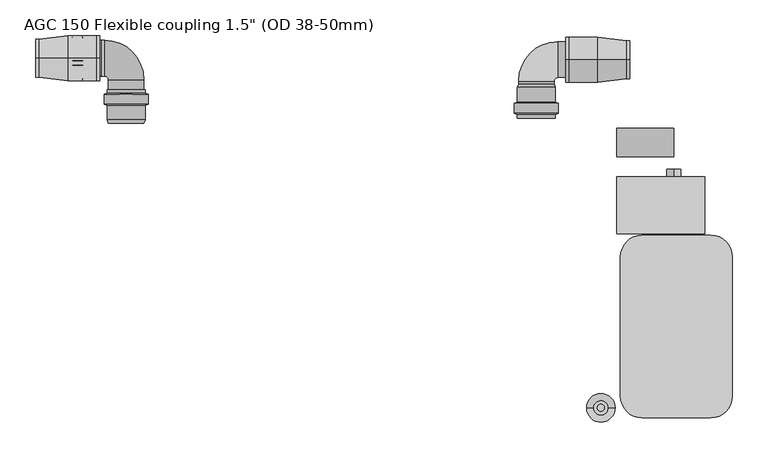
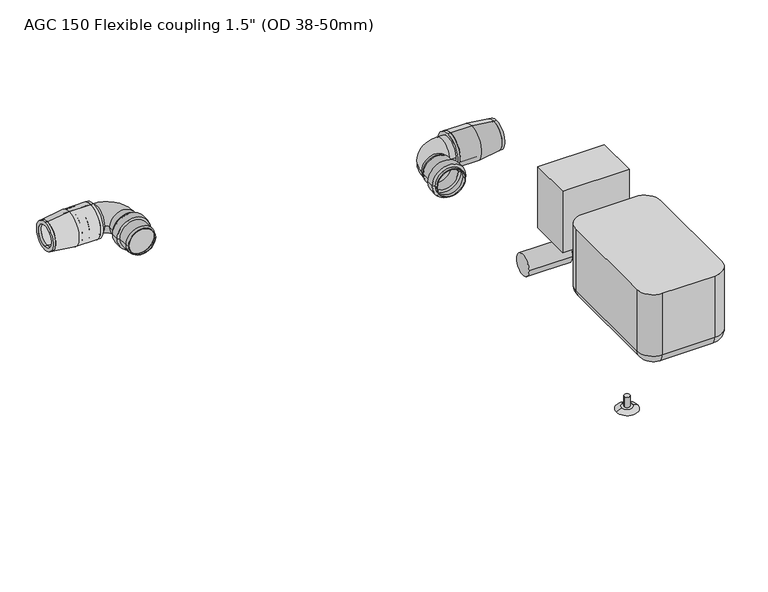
"""IFC4 building model written with IfcOpenShell, lengths in millimetres: unitary equipment geometry."""

from ifc_helpers import new_model, si_unit, point, frame, frame_2d, origin, place, context, project, spatial, polyline, circle_curve, ellipse_curve, trimmed, segment, composite_curve, outline, extrude, source, transform, mapped, element, save
from ifc_brep_helpers import plane_surface, cylinder_surface, revolved_surface, advanced_brep


def unitary_equipment_1463d43d(model_context):
    return source(origin(), model_context, "Body", "SolidModel", [
        advanced_brep(
        [(-309.5, 267.5, 317.0), (-309.5, 318.5, 317.0), (-303.9, 318.5, 317.0), (-303.9, 267.5, 317.0), (-309.5, 266.5, 317.0), (-309.5, 319.5, 317.0), (-304.6057737, 266.5, 317.0), (-304.6057737, 319.5, 317.0), (-303.0057737, 262.0, 317.0), (-303.0057737, 324.0, 317.0), (-288.6792408, 262.0, 317.0), (-288.6792408, 324.0, 317.0), (-287.1792408, 266.5, 317.0), (-287.1792408, 319.5, 317.0), (-266.1097736, 266.5, 317.0), (-266.1097736, 319.5, 317.0), (-262.1328335, 268.0698448, 317.0), (-262.1328335, 317.9301552, 317.0), (-262.5, 269.0, 317.0), (-262.5, 317.0, 317.0), (-266.3, 267.5, 317.0), (-266.3, 318.5, 317.0), (-287.9, 267.5, 317.0), (-287.9, 318.5, 317.0), (-289.4, 263.0, 317.0), (-289.4, 323.0, 317.0), (-302.3, 263.0, 317.0), (-302.3, 323.0, 317.0)],
        [
            (0, 1, circle_curve(frame((-309.5, 293.0, 317.0), z_axis=(-1.0, 0.0, 0.0), x_axis=(0.0, 1.0, 0.0)), 25.5)),
            (1, 2),
            (2, 3, circle_curve(frame((-303.9, 293.0, 317.0), z_axis=(1.0, 0.0, 0.0), x_axis=(0.0, 1.0, 0.0)), 25.5)),
            (3, 0),
            (1, 0, circle_curve(frame((-309.5, 293.0, 317.0), z_axis=(-1.0, 0.0, 0.0), x_axis=(0.0, 1.0, 0.0)), 25.5)),
            (3, 2, circle_curve(frame((-303.9, 293.0, 317.0), z_axis=(1.0, 0.0, 0.0), x_axis=(0.0, 1.0, 0.0)), 25.5)),
            (4, 5, circle_curve(frame((-309.5, 293.0, 317.0), z_axis=(-1.0, 0.0, 0.0), x_axis=(0.0, 1.0, 0.0)), 26.5)),
            (5, 1),
            (0, 4),
            (5, 4, circle_curve(frame((-309.5, 293.0, 317.0), z_axis=(-1.0, 0.0, 0.0), x_axis=(0.0, 1.0, 0.0)), 26.5)),
            (6, 7, circle_curve(frame((-304.6057737, 293.0, 317.0), z_axis=(-1.0, 0.0, 0.0), x_axis=(0.0, 1.0, 0.0)), 26.5)),
            (7, 5),
            (4, 6),
            (7, 6, circle_curve(frame((-304.6057737, 293.0, 317.0), z_axis=(-1.0, 0.0, 0.0), x_axis=(0.0, 1.0, 0.0)), 26.5)),
            (8, 9, circle_curve(frame((-303.0057737, 293.0, 317.0), z_axis=(-1.0, 0.0, 0.0), x_axis=(0.0, 1.0, 0.0)), 31.0)),
            (9, 7),
            (6, 8),
            (9, 8, circle_curve(frame((-303.0057737, 293.0, 317.0), z_axis=(-1.0, 0.0, 0.0), x_axis=(0.0, 1.0, 0.0)), 31.0)),
            (10, 11, circle_curve(frame((-288.6792408, 293.0, 317.0), z_axis=(-1.0, 0.0, 0.0), x_axis=(0.0, 1.0, 0.0)), 31.0)),
            (11, 9),
            (8, 10),
            (11, 10, circle_curve(frame((-288.6792408, 293.0, 317.0), z_axis=(-1.0, 0.0, 0.0), x_axis=(0.0, 1.0, 0.0)), 31.0)),
            (12, 13, circle_curve(frame((-287.1792408, 293.0, 317.0), z_axis=(-1.0, 0.0, 0.0), x_axis=(0.0, 1.0, 0.0)), 26.5)),
            (13, 11),
            (10, 12),
            (13, 12, circle_curve(frame((-287.1792408, 293.0, 317.0), z_axis=(-1.0, 0.0, 0.0), x_axis=(0.0, 1.0, 0.0)), 26.5)),
            (14, 15, circle_curve(frame((-266.1097736, 293.0, 317.0), z_axis=(-1.0, 0.0, 0.0), x_axis=(0.0, 1.0, 0.0)), 26.5)),
            (15, 13),
            (12, 14),
            (15, 14, circle_curve(frame((-266.1097736, 293.0, 317.0), z_axis=(-1.0, 0.0, 0.0), x_axis=(0.0, 1.0, 0.0)), 26.5)),
            (16, 17, circle_curve(frame((-262.1328335, 293.0, 317.0), z_axis=(-1.0, 0.0, 0.0), x_axis=(0.0, 1.0, 0.0)), 24.9301552)),
            (17, 15),
            (14, 16),
            (17, 16, circle_curve(frame((-262.1328335, 293.0, 317.0), z_axis=(-1.0, 0.0, 0.0), x_axis=(0.0, 1.0, 0.0)), 24.9301552)),
            (18, 19, circle_curve(frame((-262.5, 293.0, 317.0), z_axis=(-1.0, 0.0, 0.0), x_axis=(0.0, 1.0, 0.0)), 24.0)),
            (19, 17),
            (16, 18),
            (19, 18, circle_curve(frame((-262.5, 293.0, 317.0), z_axis=(-1.0, 0.0, 0.0), x_axis=(0.0, 1.0, 0.0)), 24.0)),
            (20, 21, circle_curve(frame((-266.3, 293.0, 317.0), z_axis=(-1.0, 0.0, 0.0), x_axis=(0.0, 1.0, 0.0)), 25.5)),
            (21, 19),
            (18, 20),
            (21, 20, circle_curve(frame((-266.3, 293.0, 317.0), z_axis=(-1.0, 0.0, 0.0), x_axis=(0.0, 1.0, 0.0)), 25.5)),
            (22, 23, circle_curve(frame((-287.9, 293.0, 317.0), z_axis=(-1.0, 0.0, 0.0), x_axis=(0.0, 1.0, 0.0)), 25.5)),
            (23, 21),
            (20, 22),
            (23, 22, circle_curve(frame((-287.9, 293.0, 317.0), z_axis=(-1.0, 0.0, 0.0), x_axis=(0.0, 1.0, 0.0)), 25.5)),
            (24, 25, circle_curve(frame((-289.4, 293.0, 317.0), z_axis=(-1.0, 0.0, 0.0), x_axis=(0.0, 1.0, 0.0)), 30.0)),
            (25, 23),
            (22, 24),
            (25, 24, circle_curve(frame((-289.4, 293.0, 317.0), z_axis=(-1.0, 0.0, 0.0), x_axis=(0.0, 1.0, 0.0)), 30.0)),
            (26, 27, circle_curve(frame((-302.3, 293.0, 317.0), z_axis=(-1.0, 0.0, 0.0), x_axis=(0.0, 1.0, 0.0)), 30.0)),
            (27, 25),
            (24, 26),
            (27, 26, circle_curve(frame((-302.3, 293.0, 317.0), z_axis=(-1.0, 0.0, 0.0), x_axis=(0.0, 1.0, 0.0)), 30.0)),
            (2, 27),
            (26, 3),
        ],
        [
            revolved_surface(polyline([(-303.9, 318.5, 317.0), (-309.5, 318.5, 317.0)]), (-250.031054, 293.0, 317.0), (1.0, 0.0, 0.0)),
            plane_surface(frame((-309.5, 293.0, 317.0), z_axis=(-1.0, 0.0, 0.0), x_axis=(0.0, 1.0, 0.0))),
            cylinder_surface(frame((-250.031054, 293.0, 317.0), z_axis=(1.0, 0.0, 0.0), x_axis=(0.0, 1.0, 0.0)), 26.5),
            revolved_surface(polyline([(-304.6057737, 319.5, 317.0), (-303.0057737, 324.0, 317.0)]), (-250.031054, 293.0, 317.0), (1.0, 0.0, 0.0)),
            cylinder_surface(frame((-250.031054, 293.0, 317.0), z_axis=(1.0, 0.0, 0.0), x_axis=(0.0, 1.0, 0.0)), 31.0),
            revolved_surface(polyline([(-288.6792408, 324.0, 317.0), (-287.1792408, 319.5, 317.0)]), (-250.031054, 293.0, 317.0), (1.0, 0.0, 0.0)),
            revolved_surface(polyline([(-266.1097736, 319.5, 317.0), (-262.1328335, 317.9301552, 317.0)]), (-250.031054, 293.0, 317.0), (1.0, 0.0, 0.0)),
            revolved_surface(polyline([(-262.1328335, 317.9301552, 317.0), (-262.5, 317.0, 317.0)]), (-250.031054, 293.0, 317.0), (1.0, 0.0, 0.0)),
            revolved_surface(polyline([(-262.5, 317.0, 317.0), (-266.3, 318.5, 317.0)]), (-250.031054, 293.0, 317.0), (1.0, 0.0, 0.0)),
            revolved_surface(polyline([(-266.3, 318.5, 317.0), (-287.9, 318.5, 317.0)]), (-250.031054, 293.0, 317.0), (1.0, 0.0, 0.0)),
            revolved_surface(polyline([(-287.9, 318.5, 317.0), (-289.4, 323.0, 317.0)]), (-250.031054, 293.0, 317.0), (1.0, 0.0, 0.0)),
            revolved_surface(polyline([(-289.4, 323.0, 317.0), (-302.3, 323.0, 317.0)]), (-250.031054, 293.0, 317.0), (1.0, 0.0, 0.0)),
            revolved_surface(polyline([(-302.3, 323.0, 317.0), (-303.9, 318.5, 317.0)]), (-250.031054, 293.0, 317.0), (1.0, 0.0, 0.0)),
        ],
        [
            (0, [[1, 2, 3, 4]]),
            (0, [[5, -4, 6, -2]]),
            (1, [[7, 8, -1, 9]]),
            (1, [[10, -9, -5, -8]]),
            (2, [[11, 12, -7, 13]]),
            (2, [[14, -13, -10, -12]]),
            (3, [[15, 16, -11, 17]]),
            (3, [[18, -17, -14, -16]]),
            (4, [[19, 20, -15, 21]]),
            (4, [[22, -21, -18, -20]]),
            (5, [[23, 24, -19, 25]]),
            (5, [[26, -25, -22, -24]]),
            (2, [[27, 28, -23, 29]]),
            (2, [[30, -29, -26, -28]]),
            (6, [[31, 32, -27, 33]]),
            (6, [[34, -33, -30, -32]]),
            (7, [[35, 36, -31, 37]]),
            (7, [[38, -37, -34, -36]]),
            (8, [[39, 40, -35, 41]]),
            (8, [[42, -41, -38, -40]]),
            (9, [[43, 44, -39, 45]]),
            (9, [[46, -45, -42, -44]]),
            (10, [[47, 48, -43, 49]]),
            (10, [[50, -49, -46, -48]]),
            (11, [[51, 52, -47, 53]]),
            (11, [[54, -53, -50, -52]]),
            (12, [[-3, 55, -51, 56]]),
            (12, [[-6, -56, -54, -55]]),
        ],
    ),
        advanced_brep(
        [(-197.5, 241.8, 317.0), (-257.5, 241.8, 317.0), (-253.0, 243.4, 317.0), (-202.0, 243.4, 317.0), (-197.5, 228.9, 317.0), (-257.5, 228.9, 317.0), (-202.0, 227.4, 317.0), (-253.0, 227.4, 317.0), (-202.0, 207.0, 317.0), (-253.0, 207.0, 317.0), (-203.5, 202.0, 317.0), (-251.5, 202.0, 317.0), (-202.5421737, 201.7126521, 317.0), (-252.4578263, 201.7126521, 317.0), (-201.0, 206.8532312, 317.0), (-254.0, 206.8532312, 317.0), (-201.0, 226.6792408, 317.0), (-254.0, 226.6792408, 317.0), (-196.7425527, 228.0983899, 317.0), (-258.2574473, 228.0983899, 317.0), (-196.7425527, 242.5920147, 317.0), (-258.2574473, 242.5920147, 317.0), (-201.0, 244.1057737, 317.0), (-254.0, 244.1057737, 317.0), (-201.0, 249.0, 317.0), (-254.0, 249.0, 317.0), (-202.0, 249.0, 317.0), (-253.0, 249.0, 317.0)],
        [
            (0, 1, circle_curve(frame((-227.5, 241.8, 317.0), z_axis=(0.0, -1.0, 0.0), x_axis=(-1.0, 0.0, 0.0)), 30.0)),
            (1, 2),
            (2, 3, circle_curve(frame((-227.5, 243.4, 317.0), z_axis=(0.0, 1.0, 0.0), x_axis=(-1.0, 0.0, 0.0)), 25.5)),
            (3, 0),
            (1, 0, circle_curve(frame((-227.5, 241.8, 317.0), z_axis=(0.0, -1.0, 0.0), x_axis=(-1.0, 0.0, 0.0)), 30.0)),
            (3, 2, circle_curve(frame((-227.5, 243.4, 317.0), z_axis=(0.0, 1.0, 0.0), x_axis=(-1.0, 0.0, 0.0)), 25.5)),
            (4, 5, circle_curve(frame((-227.5, 228.9, 317.0), z_axis=(0.0, -1.0, 0.0), x_axis=(-1.0, 0.0, 0.0)), 30.0)),
            (5, 1),
            (0, 4),
            (5, 4, circle_curve(frame((-227.5, 228.9, 317.0), z_axis=(0.0, -1.0, 0.0), x_axis=(-1.0, 0.0, 0.0)), 30.0)),
            (6, 7, circle_curve(frame((-227.5, 227.4, 317.0), z_axis=(0.0, -1.0, 0.0), x_axis=(-1.0, 0.0, 0.0)), 25.5)),
            (7, 5),
            (4, 6),
            (7, 6, circle_curve(frame((-227.5, 227.4, 317.0), z_axis=(0.0, -1.0, 0.0), x_axis=(-1.0, 0.0, 0.0)), 25.5)),
            (8, 9, circle_curve(frame((-227.5, 207.0, 317.0), z_axis=(0.0, -1.0, 0.0), x_axis=(-1.0, 0.0, 0.0)), 25.5)),
            (9, 7),
            (6, 8),
            (9, 8, circle_curve(frame((-227.5, 207.0, 317.0), z_axis=(0.0, -1.0, 0.0), x_axis=(-1.0, 0.0, 0.0)), 25.5)),
            (10, 11, circle_curve(frame((-227.5, 202.0, 317.0), z_axis=(0.0, -1.0, 0.0), x_axis=(-1.0, 0.0, 0.0)), 24.0)),
            (11, 9),
            (8, 10),
            (11, 10, circle_curve(frame((-227.5, 202.0, 317.0), z_axis=(0.0, -1.0, 0.0), x_axis=(-1.0, 0.0, 0.0)), 24.0)),
            (12, 13, circle_curve(frame((-227.5, 201.7126521, 317.0), z_axis=(0.0, -1.0, 0.0), x_axis=(-1.0, 0.0, 0.0)), 24.9578263)),
            (13, 11),
            (10, 12),
            (13, 12, circle_curve(frame((-227.5, 201.7126521, 317.0), z_axis=(0.0, -1.0, 0.0), x_axis=(-1.0, 0.0, 0.0)), 24.9578263)),
            (14, 15, circle_curve(frame((-227.5, 206.8532312, 317.0), z_axis=(0.0, -1.0, 0.0), x_axis=(-1.0, 0.0, 0.0)), 26.5)),
            (15, 13),
            (12, 14),
            (15, 14, circle_curve(frame((-227.5, 206.8532312, 317.0), z_axis=(0.0, -1.0, 0.0), x_axis=(-1.0, 0.0, 0.0)), 26.5)),
            (16, 17, circle_curve(frame((-227.5, 226.6792408, 317.0), z_axis=(0.0, -1.0, 0.0), x_axis=(-1.0, 0.0, 0.0)), 26.5)),
            (17, 15),
            (14, 16),
            (17, 16, circle_curve(frame((-227.5, 226.6792408, 317.0), z_axis=(0.0, -1.0, 0.0), x_axis=(-1.0, 0.0, 0.0)), 26.5)),
            (18, 19, circle_curve(frame((-227.5, 228.0983899, 317.0), z_axis=(0.0, -1.0, 0.0), x_axis=(-1.0, 0.0, 0.0)), 30.7574473)),
            (19, 17),
            (16, 18),
            (19, 18, circle_curve(frame((-227.5, 228.0983899, 317.0), z_axis=(0.0, -1.0, 0.0), x_axis=(-1.0, 0.0, 0.0)), 30.7574473)),
            (20, 21, circle_curve(frame((-227.5, 242.5920147, 317.0), z_axis=(0.0, -1.0, 0.0), x_axis=(-1.0, 0.0, 0.0)), 30.7574473)),
            (21, 19),
            (18, 20),
            (21, 20, circle_curve(frame((-227.5, 242.5920147, 317.0), z_axis=(0.0, -1.0, 0.0), x_axis=(-1.0, 0.0, 0.0)), 30.7574473)),
            (22, 23, circle_curve(frame((-227.5, 244.1057737, 317.0), z_axis=(0.0, -1.0, 0.0), x_axis=(-1.0, 0.0, 0.0)), 26.5)),
            (23, 21),
            (20, 22),
            (23, 22, circle_curve(frame((-227.5, 244.1057737, 317.0), z_axis=(0.0, -1.0, 0.0), x_axis=(-1.0, 0.0, 0.0)), 26.5)),
            (24, 25, circle_curve(frame((-227.5, 249.0, 317.0), z_axis=(0.0, -1.0, 0.0), x_axis=(-1.0, 0.0, 0.0)), 26.5)),
            (25, 23),
            (22, 24),
            (25, 24, circle_curve(frame((-227.5, 249.0, 317.0), z_axis=(0.0, -1.0, 0.0), x_axis=(-1.0, 0.0, 0.0)), 26.5)),
            (26, 27, circle_curve(frame((-227.5, 249.0, 317.0), z_axis=(0.0, -1.0, 0.0), x_axis=(-1.0, 0.0, 0.0)), 25.5)),
            (27, 25),
            (24, 26),
            (27, 26, circle_curve(frame((-227.5, 249.0, 317.0), z_axis=(0.0, -1.0, 0.0), x_axis=(-1.0, 0.0, 0.0)), 25.5)),
            (2, 27),
            (26, 3),
        ],
        [
            revolved_surface(polyline([(-253.0, 243.4, 317.0), (-257.5, 241.8, 317.0)]), (-227.5, 246.2050583, 317.0), (0.0, 1.0, 0.0)),
            revolved_surface(polyline([(-257.5, 241.8, 317.0), (-257.5, 228.9, 317.0)]), (-227.5, 246.2050583, 317.0), (0.0, 1.0, 0.0)),
            revolved_surface(polyline([(-257.5, 228.9, 317.0), (-253.0, 227.4, 317.0)]), (-227.5, 246.2050583, 317.0), (0.0, 1.0, 0.0)),
            revolved_surface(polyline([(-253.0, 227.4, 317.0), (-253.0, 207.0, 317.0)]), (-227.5, 246.2050583, 317.0), (0.0, 1.0, 0.0)),
            revolved_surface(polyline([(-253.0, 207.0, 317.0), (-251.5, 202.0, 317.0)]), (-227.5, 246.2050583, 317.0), (0.0, 1.0, 0.0)),
            revolved_surface(polyline([(-251.5, 202.0, 317.0), (-252.4578263, 201.7126521, 317.0)]), (-227.5, 246.2050583, 317.0), (0.0, 1.0, 0.0)),
            revolved_surface(polyline([(-252.4578263, 201.7126521, 317.0), (-254.0, 206.8532312, 317.0)]), (-227.5, 246.2050583, 317.0), (0.0, 1.0, 0.0)),
            cylinder_surface(frame((-227.5, 246.2050583, 317.0), z_axis=(0.0, 1.0, 0.0), x_axis=(-1.0, 0.0, 0.0)), 26.5),
            revolved_surface(polyline([(-254.0, 226.6792408, 317.0), (-258.2574473, 228.0983899, 317.0)]), (-227.5, 246.2050583, 317.0), (0.0, 1.0, 0.0)),
            cylinder_surface(frame((-227.5, 246.2050583, 317.0), z_axis=(0.0, 1.0, 0.0), x_axis=(-1.0, 0.0, 0.0)), 30.7574473),
            revolved_surface(polyline([(-258.2574473, 242.5920147, 317.0), (-254.0, 244.1057737, 317.0)]), (-227.5, 246.2050583, 317.0), (0.0, 1.0, 0.0)),
            plane_surface(frame((-227.5, 249.0, 317.0), z_axis=(0.0, 1.0, 0.0), x_axis=(-1.0, 0.0, 0.0))),
            revolved_surface(polyline([(-253.0, 249.0, 317.0), (-253.0, 243.4, 317.0)]), (-227.5, 246.2050583, 317.0), (0.0, 1.0, 0.0)),
        ],
        [
            (0, [[1, 2, 3, 4]]),
            (0, [[5, -4, 6, -2]]),
            (1, [[7, 8, -1, 9]]),
            (1, [[10, -9, -5, -8]]),
            (2, [[11, 12, -7, 13]]),
            (2, [[14, -13, -10, -12]]),
            (3, [[15, 16, -11, 17]]),
            (3, [[18, -17, -14, -16]]),
            (4, [[19, 20, -15, 21]]),
            (4, [[22, -21, -18, -20]]),
            (5, [[23, 24, -19, 25]]),
            (5, [[26, -25, -22, -24]]),
            (6, [[27, 28, -23, 29]]),
            (6, [[30, -29, -26, -28]]),
            (7, [[31, 32, -27, 33]]),
            (7, [[34, -33, -30, -32]]),
            (8, [[35, 36, -31, 37]]),
            (8, [[38, -37, -34, -36]]),
            (9, [[39, 40, -35, 41]]),
            (9, [[42, -41, -38, -40]]),
            (10, [[43, 44, -39, 45]]),
            (10, [[46, -45, -42, -44]]),
            (7, [[47, 48, -43, 49]]),
            (7, [[50, -49, -46, -48]]),
            (11, [[51, 52, -47, 53]]),
            (11, [[54, -53, -50, -52]]),
            (12, [[-3, 55, -51, 56]]),
            (12, [[-6, -56, -54, -55]]),
        ],
    ),
        advanced_brep(
        [(-252.5, 263.0, 317.0), (-257.5, 268.0, 317.0), (-257.5, 318.0, 317.0), (-202.5, 263.0, 317.0), (-267.5, 318.0, 317.0), (-267.5, 268.0, 317.0), (-202.5, 207.0, 317.0), (-252.5, 207.0, 317.0)],
        [
            (0, 1, circle_curve(frame((-257.5, 263.0, 317.0), z_axis=(0.0, 0.0, 1.0), x_axis=(0.0, 1.0, 0.0)), 5.0)),
            (1, 2, circle_curve(frame((-257.5, 293.0, 317.0), z_axis=(1.0, 0.0, 0.0), x_axis=(0.0, -1.0, 0.0)), 25.0)),
            (2, 3, circle_curve(frame((-257.5, 263.0, 317.0), z_axis=(0.0, 0.0, -1.0), x_axis=(0.0, 1.0, 0.0)), 55.0)),
            (3, 0, circle_curve(frame((-227.5, 263.0, 317.0), z_axis=(0.0, 1.0, 0.0), x_axis=(-1.0, 0.0, 0.0)), 25.0)),
            (0, 3, circle_curve(frame((-227.5, 263.0, 317.0), z_axis=(0.0, 1.0, 0.0), x_axis=(-1.0, 0.0, 0.0)), 25.0)),
            (2, 1, circle_curve(frame((-257.5, 293.0, 317.0), z_axis=(1.0, 0.0, 0.0), x_axis=(0.0, -1.0, 0.0)), 25.0)),
            (4, 5, circle_curve(frame((-267.5, 293.0, 317.0), z_axis=(-1.0, 0.0, 0.0), x_axis=(0.0, -1.0, 0.0)), 25.0)),
            (5, 4, circle_curve(frame((-267.5, 293.0, 317.0), z_axis=(-1.0, 0.0, 0.0), x_axis=(0.0, -1.0, 0.0)), 25.0)),
            (5, 1),
            (2, 4),
            (6, 7, circle_curve(frame((-227.5, 207.0, 317.0), z_axis=(0.0, -1.0, 0.0), x_axis=(-1.0, 0.0, 0.0)), 25.0)),
            (7, 6, circle_curve(frame((-227.5, 207.0, 317.0), z_axis=(0.0, -1.0, 0.0), x_axis=(-1.0, 0.0, 0.0)), 25.0)),
            (7, 0),
            (3, 6),
        ],
        [
            revolved_surface(trimmed(ellipse_curve(frame((-257.5, 293.0, 317.0), z_axis=(-1.0, 0.0, 0.0), x_axis=(0.0, -1.0, 0.0)), 25.0, 25.0), [point((-257.5, 318.0, 317.0))], [point((-257.5, 268.0, 317.0))], True, "CARTESIAN"), (-257.5, 263.0, 317.0), (0.0, 0.0, -1.0)),
            revolved_surface(trimmed(ellipse_curve(frame((-257.5, 293.0, 317.0), z_axis=(-1.0, 0.0, 0.0), x_axis=(0.0, -1.0, 0.0)), 25.0, 25.0), [point((-257.5, 268.0, 317.0))], [point((-257.5, 318.0, 317.0))], True, "CARTESIAN"), (-257.5, 263.0, 317.0), (0.0, 0.0, -1.0)),
            plane_surface(frame((-267.5, 268.0, 317.0), z_axis=(-1.0, 0.0, 0.0), x_axis=(0.0, 0.0, 1.0))),
            cylinder_surface(frame((-267.5, 293.0, 317.0), z_axis=(1.0, 0.0, 0.0), x_axis=(0.0, -1.0, 0.0)), 25.0),
            plane_surface(frame((-227.5, 207.0, 317.0), z_axis=(0.0, -1.0, 0.0), x_axis=(0.0, 0.0, -1.0))),
            cylinder_surface(frame((-227.5, 263.0, 317.0), z_axis=(0.0, 1.0, 0.0), x_axis=(-1.0, 0.0, 0.0)), 25.0),
        ],
        [
            (0, [[1, 2, 3, 4]]),
            (1, [[-1, 5, -3, 6]]),
            (2, [[7, 8]]),
            (3, [[-8, 9, -6, 10]]),
            (3, [[-7, -10, -2, -9]]),
            (4, [[11, 12]]),
            (5, [[-12, 13, -4, 14]]),
            (5, [[-11, -14, -5, -13]]),
        ],
    ),
        advanced_brep(
        [(322.5, 209.0, 226.0), (373.5, 209.0, 226.0), (373.5, 214.6, 226.0), (322.5, 214.6, 226.0), (321.5, 209.0, 226.0), (374.5, 209.0, 226.0), (321.5, 213.8942263, 226.0), (374.5, 213.8942263, 226.0), (317.0, 215.4942263, 226.0), (379.0, 215.4942263, 226.0), (317.0, 229.8207592, 226.0), (379.0, 229.8207592, 226.0), (321.5, 231.3207592, 226.0), (374.5, 231.3207592, 226.0), (321.5, 252.3902264, 226.0), (374.5, 252.3902264, 226.0), (323.0698448, 256.3671665, 226.0), (372.9301552, 256.3671665, 226.0), (324.0, 256.0, 226.0), (372.0, 256.0, 226.0), (322.5, 252.2, 226.0), (373.5, 252.2, 226.0), (322.5, 230.6, 226.0), (373.5, 230.6, 226.0), (318.0, 229.1, 226.0), (378.0, 229.1, 226.0), (318.0, 216.2, 226.0), (378.0, 216.2, 226.0)],
        [
            (0, 1, circle_curve(frame((348.0, 209.0, 226.0), z_axis=(0.0, -1.0, 0.0), x_axis=(1.0, 0.0, 0.0)), 25.5)),
            (1, 2),
            (2, 3, circle_curve(frame((348.0, 214.6, 226.0), z_axis=(0.0, 1.0, 0.0), x_axis=(1.0, 0.0, 0.0)), 25.5)),
            (3, 0),
            (1, 0, circle_curve(frame((348.0, 209.0, 226.0), z_axis=(0.0, -1.0, 0.0), x_axis=(1.0, 0.0, 0.0)), 25.5)),
            (3, 2, circle_curve(frame((348.0, 214.6, 226.0), z_axis=(0.0, 1.0, 0.0), x_axis=(1.0, 0.0, 0.0)), 25.5)),
            (4, 5, circle_curve(frame((348.0, 209.0, 226.0), z_axis=(0.0, -1.0, 0.0), x_axis=(1.0, 0.0, 0.0)), 26.5)),
            (5, 1),
            (0, 4),
            (5, 4, circle_curve(frame((348.0, 209.0, 226.0), z_axis=(0.0, -1.0, 0.0), x_axis=(1.0, 0.0, 0.0)), 26.5)),
            (6, 7, circle_curve(frame((348.0, 213.8942263, 226.0), z_axis=(0.0, -1.0, 0.0), x_axis=(1.0, 0.0, 0.0)), 26.5)),
            (7, 5),
            (4, 6),
            (7, 6, circle_curve(frame((348.0, 213.8942263, 226.0), z_axis=(0.0, -1.0, 0.0), x_axis=(1.0, 0.0, 0.0)), 26.5)),
            (8, 9, circle_curve(frame((348.0, 215.4942263, 226.0), z_axis=(0.0, -1.0, 0.0), x_axis=(1.0, 0.0, 0.0)), 31.0)),
            (9, 7),
            (6, 8),
            (9, 8, circle_curve(frame((348.0, 215.4942263, 226.0), z_axis=(0.0, -1.0, 0.0), x_axis=(1.0, 0.0, 0.0)), 31.0)),
            (10, 11, circle_curve(frame((348.0, 229.8207592, 226.0), z_axis=(0.0, -1.0, 0.0), x_axis=(1.0, 0.0, 0.0)), 31.0)),
            (11, 9),
            (8, 10),
            (11, 10, circle_curve(frame((348.0, 229.8207592, 226.0), z_axis=(0.0, -1.0, 0.0), x_axis=(1.0, 0.0, 0.0)), 31.0)),
            (12, 13, circle_curve(frame((348.0, 231.3207592, 226.0), z_axis=(0.0, -1.0, 0.0), x_axis=(1.0, 0.0, 0.0)), 26.5)),
            (13, 11),
            (10, 12),
            (13, 12, circle_curve(frame((348.0, 231.3207592, 226.0), z_axis=(0.0, -1.0, 0.0), x_axis=(1.0, 0.0, 0.0)), 26.5)),
            (14, 15, circle_curve(frame((348.0, 252.3902264, 226.0), z_axis=(0.0, -1.0, 0.0), x_axis=(1.0, 0.0, 0.0)), 26.5)),
            (15, 13),
            (12, 14),
            (15, 14, circle_curve(frame((348.0, 252.3902264, 226.0), z_axis=(0.0, -1.0, 0.0), x_axis=(1.0, 0.0, 0.0)), 26.5)),
            (16, 17, circle_curve(frame((348.0, 256.3671665, 226.0), z_axis=(0.0, -1.0, 0.0), x_axis=(1.0, 0.0, 0.0)), 24.9301552)),
            (17, 15),
            (14, 16),
            (17, 16, circle_curve(frame((348.0, 256.3671665, 226.0), z_axis=(0.0, -1.0, 0.0), x_axis=(1.0, 0.0, 0.0)), 24.9301552)),
            (18, 19, circle_curve(frame((348.0, 256.0, 226.0), z_axis=(0.0, -1.0, 0.0), x_axis=(1.0, 0.0, 0.0)), 24.0)),
            (19, 17),
            (16, 18),
            (19, 18, circle_curve(frame((348.0, 256.0, 226.0), z_axis=(0.0, -1.0, 0.0), x_axis=(1.0, 0.0, 0.0)), 24.0)),
            (20, 21, circle_curve(frame((348.0, 252.2, 226.0), z_axis=(0.0, -1.0, 0.0), x_axis=(1.0, 0.0, 0.0)), 25.5)),
            (21, 19),
            (18, 20),
            (21, 20, circle_curve(frame((348.0, 252.2, 226.0), z_axis=(0.0, -1.0, 0.0), x_axis=(1.0, 0.0, 0.0)), 25.5)),
            (22, 23, circle_curve(frame((348.0, 230.6, 226.0), z_axis=(0.0, -1.0, 0.0), x_axis=(1.0, 0.0, 0.0)), 25.5)),
            (23, 21),
            (20, 22),
            (23, 22, circle_curve(frame((348.0, 230.6, 226.0), z_axis=(0.0, -1.0, 0.0), x_axis=(1.0, 0.0, 0.0)), 25.5)),
            (24, 25, circle_curve(frame((348.0, 229.1, 226.0), z_axis=(0.0, -1.0, 0.0), x_axis=(1.0, 0.0, 0.0)), 30.0)),
            (25, 23),
            (22, 24),
            (25, 24, circle_curve(frame((348.0, 229.1, 226.0), z_axis=(0.0, -1.0, 0.0), x_axis=(1.0, 0.0, 0.0)), 30.0)),
            (26, 27, circle_curve(frame((348.0, 216.2, 226.0), z_axis=(0.0, -1.0, 0.0), x_axis=(1.0, 0.0, 0.0)), 30.0)),
            (27, 25),
            (24, 26),
            (27, 26, circle_curve(frame((348.0, 216.2, 226.0), z_axis=(0.0, -1.0, 0.0), x_axis=(1.0, 0.0, 0.0)), 30.0)),
            (2, 27),
            (26, 3),
        ],
        [
            revolved_surface(polyline([(373.5, 214.6, 226.0), (373.5, 209.0, 226.0)]), (348.0, 268.468946, 226.0), (0.0, 1.0, 0.0)),
            plane_surface(frame((348.0, 209.0, 226.0), z_axis=(0.0, -1.0, 0.0), x_axis=(1.0, 0.0, 0.0))),
            cylinder_surface(frame((348.0, 268.468946, 226.0), z_axis=(0.0, 1.0, 0.0), x_axis=(1.0, 0.0, 0.0)), 26.5),
            revolved_surface(polyline([(374.5, 213.8942263, 226.0), (379.0, 215.4942263, 226.0)]), (348.0, 268.468946, 226.0), (0.0, 1.0, 0.0)),
            cylinder_surface(frame((348.0, 268.468946, 226.0), z_axis=(0.0, 1.0, 0.0), x_axis=(1.0, 0.0, 0.0)), 31.0),
            revolved_surface(polyline([(379.0, 229.8207592, 226.0), (374.5, 231.3207592, 226.0)]), (348.0, 268.468946, 226.0), (0.0, 1.0, 0.0)),
            revolved_surface(polyline([(374.5, 252.3902264, 226.0), (372.9301552, 256.3671665, 226.0)]), (348.0, 268.468946, 226.0), (0.0, 1.0, 0.0)),
            revolved_surface(polyline([(372.9301552, 256.3671665, 226.0), (372.0, 256.0, 226.0)]), (348.0, 268.468946, 226.0), (0.0, 1.0, 0.0)),
            revolved_surface(polyline([(372.0, 256.0, 226.0), (373.5, 252.2, 226.0)]), (348.0, 268.468946, 226.0), (0.0, 1.0, 0.0)),
            revolved_surface(polyline([(373.5, 252.2, 226.0), (373.5, 230.6, 226.0)]), (348.0, 268.468946, 226.0), (0.0, 1.0, 0.0)),
            revolved_surface(polyline([(373.5, 230.6, 226.0), (378.0, 229.1, 226.0)]), (348.0, 268.468946, 226.0), (0.0, 1.0, 0.0)),
            revolved_surface(polyline([(378.0, 229.1, 226.0), (378.0, 216.2, 226.0)]), (348.0, 268.468946, 226.0), (0.0, 1.0, 0.0)),
            revolved_surface(polyline([(378.0, 216.2, 226.0), (373.5, 214.6, 226.0)]), (348.0, 268.468946, 226.0), (0.0, 1.0, 0.0)),
        ],
        [
            (0, [[1, 2, 3, 4]]),
            (0, [[5, -4, 6, -2]]),
            (1, [[7, 8, -1, 9]]),
            (1, [[10, -9, -5, -8]]),
            (2, [[11, 12, -7, 13]]),
            (2, [[14, -13, -10, -12]]),
            (3, [[15, 16, -11, 17]]),
            (3, [[18, -17, -14, -16]]),
            (4, [[19, 20, -15, 21]]),
            (4, [[22, -21, -18, -20]]),
            (5, [[23, 24, -19, 25]]),
            (5, [[26, -25, -22, -24]]),
            (2, [[27, 28, -23, 29]]),
            (2, [[30, -29, -26, -28]]),
            (6, [[31, 32, -27, 33]]),
            (6, [[34, -33, -30, -32]]),
            (7, [[35, 36, -31, 37]]),
            (7, [[38, -37, -34, -36]]),
            (8, [[39, 40, -35, 41]]),
            (8, [[42, -41, -38, -40]]),
            (9, [[43, 44, -39, 45]]),
            (9, [[46, -45, -42, -44]]),
            (10, [[47, 48, -43, 49]]),
            (10, [[50, -49, -46, -48]]),
            (11, [[51, 52, -47, 53]]),
            (11, [[54, -53, -50, -52]]),
            (12, [[-3, 55, -51, 56]]),
            (12, [[-6, -56, -54, -55]]),
        ],
    ),
        advanced_brep(
        [(373.0, 261.0, 226.0), (378.0, 266.0, 226.0), (378.0, 316.0, 226.0), (323.0, 261.0, 226.0), (434.0, 316.0, 226.0), (434.0, 266.0, 226.0), (323.0, 251.0, 226.0), (373.0, 251.0, 226.0)],
        [
            (0, 1, circle_curve(frame((378.0, 261.0, 226.0), z_axis=(0.0, 0.0, -1.0), x_axis=(0.0, 1.0, 0.0)), 5.0)),
            (1, 2, circle_curve(frame((378.0, 291.0, 226.0), z_axis=(-1.0, 0.0, 0.0), x_axis=(0.0, -1.0, 0.0)), 25.0)),
            (2, 3, circle_curve(frame((378.0, 261.0, 226.0), z_axis=(0.0, 0.0, 1.0), x_axis=(0.0, 1.0, 0.0)), 55.0)),
            (3, 0, circle_curve(frame((348.0, 261.0, 226.0), z_axis=(0.0, 1.0, 0.0), x_axis=(1.0, 0.0, 0.0)), 25.0)),
            (0, 3, circle_curve(frame((348.0, 261.0, 226.0), z_axis=(0.0, 1.0, 0.0), x_axis=(1.0, 0.0, 0.0)), 25.0)),
            (2, 1, circle_curve(frame((378.0, 291.0, 226.0), z_axis=(-1.0, 0.0, 0.0), x_axis=(0.0, -1.0, 0.0)), 25.0)),
            (4, 5, circle_curve(frame((434.0, 291.0, 226.0), z_axis=(1.0, 0.0, 0.0), x_axis=(0.0, -1.0, 0.0)), 25.0)),
            (5, 4, circle_curve(frame((434.0, 291.0, 226.0), z_axis=(1.0, 0.0, 0.0), x_axis=(0.0, -1.0, 0.0)), 25.0)),
            (5, 1),
            (2, 4),
            (6, 7, circle_curve(frame((348.0, 251.0, 226.0), z_axis=(0.0, -1.0, 0.0), x_axis=(1.0, 0.0, 0.0)), 25.0)),
            (7, 6, circle_curve(frame((348.0, 251.0, 226.0), z_axis=(0.0, -1.0, 0.0), x_axis=(1.0, 0.0, 0.0)), 25.0)),
            (7, 0),
            (3, 6),
        ],
        [
            revolved_surface(trimmed(ellipse_curve(frame((378.0, 291.0, 226.0), z_axis=(1.0, 0.0, 0.0), x_axis=(0.0, -1.0, 0.0)), 25.0, 25.0), [point((378.0, 316.0, 226.0))], [point((378.0, 266.0, 226.0))], True, "CARTESIAN"), (378.0, 261.0, 226.0), (0.0, 0.0, 1.0)),
            revolved_surface(trimmed(ellipse_curve(frame((378.0, 291.0, 226.0), z_axis=(1.0, 0.0, 0.0), x_axis=(0.0, -1.0, 0.0)), 25.0, 25.0), [point((378.0, 266.0, 226.0))], [point((378.0, 316.0, 226.0))], True, "CARTESIAN"), (378.0, 261.0, 226.0), (0.0, 0.0, 1.0)),
            plane_surface(frame((434.0, 266.0, 226.0), z_axis=(1.0, 0.0, 0.0), x_axis=(0.0, 0.0, -1.0))),
            cylinder_surface(frame((434.0, 291.0, 226.0), z_axis=(-1.0, 0.0, 0.0), x_axis=(0.0, -1.0, 0.0)), 25.0),
            plane_surface(frame((348.0, 251.0, 226.0), z_axis=(0.0, -1.0, 0.0), x_axis=(0.0, 0.0, 1.0))),
            cylinder_surface(frame((348.0, 261.0, 226.0), z_axis=(0.0, 1.0, 0.0), x_axis=(1.0, 0.0, 0.0)), 25.0),
        ],
        [
            (0, [[1, 2, 3, 4]]),
            (1, [[-1, 5, -3, 6]]),
            (2, [[7, 8]]),
            (3, [[-8, 9, -6, 10]]),
            (3, [[-7, -10, -2, -9]]),
            (4, [[11, 12]]),
            (5, [[-12, 13, -4, 14]]),
            (5, [[-11, -14, -5, -13]]),
        ],
    ),
        advanced_brep(
        [(-349.5, 293.0, 290.35), (-349.5, 293.0, 343.65), (-349.5, 293.0, 337.0), (-349.5, 293.0, 297.0), (-309.5, 293.0, 285.35), (-309.5, 293.0, 348.65), (-269.805919, 293.0, 285.35), (-269.805919, 293.0, 348.65), (-269.805919, 293.0, 292.0), (-269.805919, 293.0, 342.0), (-309.5, 293.0, 292.0), (-309.5, 293.0, 342.0)],
        [
            (0, 1, circle_curve(frame((-349.5, 293.0, 317.0), z_axis=(-1.0, 0.0, 0.0), x_axis=(0.0, 0.0, -1.0)), 26.65)),
            (1, 0, circle_curve(frame((-349.5, 293.0, 317.0), z_axis=(-1.0, 0.0, 0.0), x_axis=(0.0, 0.0, 1.0)), 26.65)),
            (2, 3, circle_curve(frame((-349.5, 293.0, 317.0), z_axis=(1.0, 0.0, 0.0), x_axis=(0.0, 0.0, -1.0)), 20.0)),
            (3, 2, circle_curve(frame((-349.5, 293.0, 317.0), z_axis=(1.0, 0.0, 0.0), x_axis=(0.0, 0.0, 1.0)), 20.0)),
            (0, 4),
            (4, 5, circle_curve(frame((-309.5, 293.0, 317.0), z_axis=(-1.0, 0.0, 0.0), x_axis=(0.0, 0.0, -1.0)), 31.65)),
            (5, 1),
            (5, 4, circle_curve(frame((-309.5, 293.0, 317.0), z_axis=(-1.0, 0.0, 0.0), x_axis=(0.0, 0.0, 1.0)), 31.65)),
            (6, 7, circle_curve(frame((-269.805919, 293.0, 317.0), z_axis=(1.0, 0.0, 0.0), x_axis=(0.0, 0.0, 1.0)), 31.65)),
            (7, 6, circle_curve(frame((-269.805919, 293.0, 317.0), z_axis=(1.0, 0.0, 0.0), x_axis=(0.0, 0.0, 1.0)), 31.65)),
            (8, 9, circle_curve(frame((-269.805919, 293.0, 317.0), z_axis=(-1.0, 0.0, 0.0), x_axis=(0.0, 0.0, 1.0)), 25.0)),
            (9, 8, circle_curve(frame((-269.805919, 293.0, 317.0), z_axis=(-1.0, 0.0, 0.0), x_axis=(0.0, 0.0, 1.0)), 25.0)),
            (7, 5),
            (4, 6),
            (8, 10),
            (10, 11, circle_curve(frame((-309.5, 293.0, 317.0), z_axis=(-1.0, 0.0, 0.0), x_axis=(0.0, 0.0, 1.0)), 25.0)),
            (11, 9),
            (11, 10, circle_curve(frame((-309.5, 293.0, 317.0), z_axis=(-1.0, 0.0, 0.0), x_axis=(0.0, 0.0, 1.0)), 25.0)),
            (10, 3),
            (2, 11),
        ],
        [
            plane_surface(frame((-349.5, 293.0, 317.0), z_axis=(-1.0, 0.0, 0.0), x_axis=(0.0, 1.0, 0.0))),
            revolved_surface(polyline([(-349.5, 293.0, 290.35), (-309.5, 293.0, 285.35)]), (-562.7, 293.0, 317.0), (1.0, 0.0, 0.0)),
            revolved_surface(polyline([(-349.5, 293.0, 343.65), (-309.5, 293.0, 348.65)]), (-562.7, 293.0, 317.0), (1.0, 0.0, 0.0)),
            plane_surface(frame((-269.805919, 293.0, 348.65), z_axis=(1.0, 0.0, 0.0), x_axis=(0.0, -1.0, 0.0))),
            cylinder_surface(frame((-309.5, 293.0, 317.0), z_axis=(1.0, 0.0, 0.0), x_axis=(0.0, 0.0, 1.0)), 31.65),
            revolved_surface(polyline([(-309.5, 293.0, 342.0), (-269.805919, 293.0, 342.0)]), (-309.5, 293.0, 317.0), (-1.0, 0.0, 0.0)),
            revolved_surface(polyline([(-309.5, 293.0, 292.0), (-349.5, 293.0, 297.0)]), (-509.5, 293.0, 317.0), (1.0, 0.0, 0.0)),
        ],
        [
            (0, [[1, 2], [3, 4]]),
            (1, [[-1, 5, 6, 7]]),
            (2, [[-2, -7, 8, -5]]),
            (3, [[9, 10], [11, 12]]),
            (4, [[-10, 13, -6, 14]]),
            (4, [[-9, -14, -8, -13]]),
            (5, [[-11, 15, 16, 17]]),
            (5, [[-12, -17, 18, -15]]),
            (6, [[19, -3, 20, -16]]),
            (6, [[-19, -18, -20, -4]]),
        ],
    ),
        extrude(outline(composite_curve([segment(trimmed(circle_curve(frame_2d((293.0, 317.0)), 31.65), [point((293.0, 285.35))], [point((293.0, 348.65))], False, "CARTESIAN"), True, "CONTINUOUS"), segment(trimmed(circle_curve(frame_2d((293.0, 317.0)), 31.65), [point((293.0, 348.65))], [point((293.0, 285.35))], False, "CARTESIAN"), True, "CONTINUOUS")], self_intersect=False), holes=[composite_curve([segment(trimmed(circle_curve(frame_2d((293.0, 317.0)), 25.0), [point((293.0, 292.0))], [point((293.0, 342.0))], True, "CARTESIAN"), True, "CONTINUOUS"), segment(trimmed(circle_curve(frame_2d((293.0, 317.0)), 25.0), [point((293.0, 342.0))], [point((293.0, 292.0))], True, "CARTESIAN"), True, "CONTINUOUS")], self_intersect=False)]), frame((-269.805919, 0.0, 0.0), z_axis=(1.0, 0.0, 0.0), x_axis=(0.0, 1.0, 0.0)), (0.0, 0.0, 1.0), 5.0),
        extrude(outline(composite_curve([segment(trimmed(circle_curve(frame_2d((293.0, 317.0)), 26.65), [point((293.0, 290.35))], [point((293.0, 343.65))], False, "CARTESIAN"), True, "CONTINUOUS"), segment(trimmed(circle_curve(frame_2d((293.0, 317.0)), 26.65), [point((293.0, 343.65))], [point((293.0, 290.35))], False, "CARTESIAN"), True, "CONTINUOUS")], self_intersect=False), holes=[composite_curve([segment(trimmed(circle_curve(frame_2d((293.0, 317.0)), 20.0), [point((293.0, 297.0))], [point((293.0, 337.0))], True, "CARTESIAN"), True, "CONTINUOUS"), segment(trimmed(circle_curve(frame_2d((293.0, 317.0)), 20.0), [point((293.0, 337.0))], [point((293.0, 297.0))], True, "CARTESIAN"), True, "CONTINUOUS")], self_intersect=False)]), frame((-354.5, 0.0, 0.0), z_axis=(1.0, 0.0, 0.0), x_axis=(0.0, 1.0, 0.0)), (0.0, 0.0, 1.0), 5.0),
        advanced_brep(
        [(474.0, 291.0, 252.65), (474.0, 291.0, 199.35), (474.0, 291.0, 206.0), (474.0, 291.0, 246.0), (434.0, 291.0, 257.65), (434.0, 291.0, 194.35), (394.305919, 291.0, 257.65), (394.305919, 291.0, 194.35), (394.305919, 291.0, 251.0), (394.305919, 291.0, 201.0), (434.0, 291.0, 251.0), (434.0, 291.0, 201.0)],
        [
            (0, 1, circle_curve(frame((474.0, 291.0, 226.0), z_axis=(1.0, 0.0, 0.0), x_axis=(0.0, 0.0, 1.0)), 26.65)),
            (1, 0, circle_curve(frame((474.0, 291.0, 226.0), z_axis=(1.0, 0.0, 0.0), x_axis=(0.0, 0.0, -1.0)), 26.65)),
            (2, 3, circle_curve(frame((474.0, 291.0, 226.0), z_axis=(-1.0, 0.0, 0.0), x_axis=(0.0, 0.0, 1.0)), 20.0)),
            (3, 2, circle_curve(frame((474.0, 291.0, 226.0), z_axis=(-1.0, 0.0, 0.0), x_axis=(0.0, 0.0, -1.0)), 20.0)),
            (0, 4),
            (4, 5, circle_curve(frame((434.0, 291.0, 226.0), z_axis=(1.0, 0.0, 0.0), x_axis=(0.0, 0.0, 1.0)), 31.65)),
            (5, 1),
            (5, 4, circle_curve(frame((434.0, 291.0, 226.0), z_axis=(1.0, 0.0, 0.0), x_axis=(0.0, 0.0, -1.0)), 31.65)),
            (6, 7, circle_curve(frame((394.305919, 291.0, 226.0), z_axis=(-1.0, 0.0, 0.0), x_axis=(0.0, 0.0, -1.0)), 31.65)),
            (7, 6, circle_curve(frame((394.305919, 291.0, 226.0), z_axis=(-1.0, 0.0, 0.0), x_axis=(0.0, 0.0, -1.0)), 31.65)),
            (8, 9, circle_curve(frame((394.305919, 291.0, 226.0), z_axis=(1.0, 0.0, 0.0), x_axis=(0.0, 0.0, -1.0)), 25.0)),
            (9, 8, circle_curve(frame((394.305919, 291.0, 226.0), z_axis=(1.0, 0.0, 0.0), x_axis=(0.0, 0.0, -1.0)), 25.0)),
            (7, 5),
            (4, 6),
            (8, 10),
            (10, 11, circle_curve(frame((434.0, 291.0, 226.0), z_axis=(1.0, 0.0, 0.0), x_axis=(0.0, 0.0, -1.0)), 25.0)),
            (11, 9),
            (11, 10, circle_curve(frame((434.0, 291.0, 226.0), z_axis=(1.0, 0.0, 0.0), x_axis=(0.0, 0.0, -1.0)), 25.0)),
            (10, 3),
            (2, 11),
        ],
        [
            plane_surface(frame((474.0, 291.0, 226.0), z_axis=(1.0, 0.0, 0.0), x_axis=(0.0, 1.0, 0.0))),
            revolved_surface(polyline([(474.0, 291.0, 252.64999999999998), (434.0, 291.0, 257.65)]), (687.2, 291.0, 226.0), (-1.0, 0.0, 0.0)),
            revolved_surface(polyline([(474.0, 291.0, 199.35), (434.0, 291.0, 194.35)]), (687.2, 291.0, 226.0), (-1.0, 0.0, 0.0)),
            plane_surface(frame((394.305919, 291.0, 194.35), z_axis=(-1.0, 0.0, 0.0), x_axis=(0.0, -1.0, 0.0))),
            cylinder_surface(frame((434.0, 291.0, 226.0), z_axis=(-1.0, 0.0, 0.0), x_axis=(0.0, 0.0, -1.0)), 31.65),
            revolved_surface(polyline([(434.0, 291.0, 201.0), (394.305919, 291.0, 201.0)]), (434.0, 291.0, 226.0), (1.0, 0.0, 0.0)),
            revolved_surface(polyline([(434.0, 291.0, 251.0), (474.0, 291.0, 246.0)]), (634.0, 291.0, 226.0), (-1.0, 0.0, 0.0)),
        ],
        [
            (0, [[1, 2], [3, 4]]),
            (1, [[-1, 5, 6, 7]]),
            (2, [[-2, -7, 8, -5]]),
            (3, [[9, 10], [11, 12]]),
            (4, [[-10, 13, -6, 14]]),
            (4, [[-9, -14, -8, -13]]),
            (5, [[-11, 15, 16, 17]]),
            (5, [[-12, -17, 18, -15]]),
            (6, [[19, -3, 20, -16]]),
            (6, [[-19, -18, -20, -4]]),
        ],
    ),
        extrude(outline(composite_curve([segment(trimmed(circle_curve(frame_2d((291.0, 226.0)), 31.65), [point((291.0, 257.65))], [point((291.0, 194.35))], False, "CARTESIAN"), True, "CONTINUOUS"), segment(trimmed(circle_curve(frame_2d((291.0, 226.0)), 31.65), [point((291.0, 194.35))], [point((291.0, 257.65))], False, "CARTESIAN"), True, "CONTINUOUS")], self_intersect=False), holes=[composite_curve([segment(trimmed(circle_curve(frame_2d((291.0, 226.0)), 25.0), [point((291.0, 251.0))], [point((291.0, 201.0))], True, "CARTESIAN"), True, "CONTINUOUS"), segment(trimmed(circle_curve(frame_2d((291.0, 226.0)), 25.0), [point((291.0, 201.0))], [point((291.0, 251.0))], True, "CARTESIAN"), True, "CONTINUOUS")], self_intersect=False)]), frame((389.305919, 0.0, 0.0), z_axis=(1.0, 0.0, 0.0), x_axis=(0.0, 1.0, 0.0)), (0.0, 0.0, 1.0), 5.0),
        extrude(outline(composite_curve([segment(trimmed(circle_curve(frame_2d((291.0, 226.0)), 26.65), [point((291.0, 252.65))], [point((291.0, 199.35))], False, "CARTESIAN"), True, "CONTINUOUS"), segment(trimmed(circle_curve(frame_2d((291.0, 226.0)), 26.65), [point((291.0, 199.35))], [point((291.0, 252.65))], False, "CARTESIAN"), True, "CONTINUOUS")], self_intersect=False), holes=[composite_curve([segment(trimmed(circle_curve(frame_2d((291.0, 226.0)), 20.0), [point((291.0, 246.0))], [point((291.0, 206.0))], True, "CARTESIAN"), True, "CONTINUOUS"), segment(trimmed(circle_curve(frame_2d((291.0, 226.0)), 20.0), [point((291.0, 206.0))], [point((291.0, 246.0))], True, "CARTESIAN"), True, "CONTINUOUS")], self_intersect=False)]), frame((474.0, 0.0, 0.0), z_axis=(1.0, 0.0, 0.0), x_axis=(0.0, 1.0, 0.0)), (0.0, 0.0, 1.0), 5.0),
        extrude(outline(composite_curve([segment(trimmed(circle_curve(frame_2d((208.0, 540.6526818)), 10.0), [point((198.0, 540.6526818))], [point((218.0, 540.6526818))], False, "CARTESIAN"), True, "CONTINUOUS"), segment(trimmed(circle_curve(frame_2d((208.0, 540.6526818)), 10.0), [point((218.0, 540.6526818))], [point((198.0, 540.6526818))], False, "CARTESIAN"), True, "CONTINUOUS")], self_intersect=False)), frame((0.0, 127.0, 0.0), z_axis=(0.0, 1.0, 0.0), x_axis=(0.0, 0.0, 1.0)), (0.0, 0.0, 1.0), 10.0),
        extrude(outline(polyline([(584.0, 127.0), (584.0, 47.0), (461.0, 47.0), (461.0, 127.0), (584.0, 127.0)])), frame((0.0, 0.0, 148.0), z_axis=(0.0, 0.0, 1.0), x_axis=(1.0, 0.0, 0.0)), (0.0, 0.0, 1.0), 120.0),
        extrude(outline(composite_curve([segment(trimmed(circle_curve(frame_2d((175.0, 47.0)), 20.0), [point((195.0, 47.0))], [point((155.0, 47.0))], False, "CARTESIAN"), True, "CONTINUOUS"), segment(trimmed(circle_curve(frame_2d((175.0, 47.0)), 20.0), [point((155.0, 47.0))], [point((195.0, 47.0))], False, "CARTESIAN"), True, "CONTINUOUS")], self_intersect=False)), frame((461.0, 0.0, 0.0), z_axis=(1.0, 0.0, 0.0), x_axis=(0.0, 1.0, 0.0)), (0.0, 0.0, 1.0), 80.0),
        advanced_brep(
        [(603.0, -181.3497944, 73.0), (593.0, -191.3497944, 73.0), (496.0, -191.3497944, 73.0), (486.0, -181.3497944, 73.0), (486.0, 14.5, 73.0), (496.0, 24.5, 73.0), (593.0, 24.5, 73.0), (603.0, 14.5, 73.0), (593.0, 44.5, 213.0), (496.0, 44.5, 213.0), (466.0, 14.5, 213.0), (466.0, -181.3497944, 213.0), (496.0, -211.3497944, 213.0), (593.0, -211.3497944, 213.0), (623.0, -181.3497944, 213.0), (623.0, 14.5, 213.0), (593.0, 44.5, 93.0), (496.0, 44.5, 93.0), (466.0, 14.5, 93.0), (466.0, -181.3497944, 93.0), (496.0, -211.3497944, 93.0), (593.0, -211.3497944, 93.0), (623.0, -181.3497944, 93.0), (623.0, 14.5, 93.0)],
        [
            (0, 1, circle_curve(frame((593.0, -181.3497944, 73.0), z_axis=(0.0, 0.0, -1.0), x_axis=(1.0, 0.0, 0.0)), 10.0)),
            (1, 2),
            (2, 3, circle_curve(frame((496.0, -181.3497944, 73.0), z_axis=(0.0, 0.0, -1.0), x_axis=(0.0, -1.0, 0.0)), 10.0)),
            (3, 4),
            (4, 5, circle_curve(frame((496.0, 14.5, 73.0), z_axis=(0.0, 0.0, -1.0), x_axis=(-1.0, 0.0, 0.0)), 10.0)),
            (5, 6),
            (6, 7, circle_curve(frame((593.0, 14.5, 73.0), z_axis=(0.0, 0.0, -1.0), x_axis=(0.0, 1.0, 0.0)), 10.0)),
            (7, 0),
            (8, 9),
            (9, 10, circle_curve(frame((496.0, 14.5, 213.0), z_axis=(0.0, 0.0, 1.0), x_axis=(-1.0, 0.0, 0.0)), 30.0)),
            (10, 11),
            (11, 12, circle_curve(frame((496.0, -181.3497944, 213.0), z_axis=(0.0, 0.0, 1.0), x_axis=(-1.0, 0.0, 0.0)), 30.0)),
            (12, 13),
            (13, 14, circle_curve(frame((593.0, -181.3497944, 213.0), z_axis=(0.0, 0.0, 1.0), x_axis=(-1.0, 0.0, 0.0)), 30.0)),
            (14, 15),
            (15, 8, circle_curve(frame((593.0, 14.5, 213.0), z_axis=(0.0, 0.0, 1.0), x_axis=(-1.0, 0.0, 0.0)), 30.0)),
            (8, 16),
            (16, 17),
            (17, 9),
            (17, 18, circle_curve(frame((496.0, 14.5, 93.0), z_axis=(0.0, 0.0, 1.0), x_axis=(-1.0, 0.0, 0.0)), 30.0)),
            (18, 10),
            (18, 19),
            (19, 11),
            (19, 20, circle_curve(frame((496.0, -181.3497944, 93.0), z_axis=(0.0, 0.0, 1.0), x_axis=(-1.0, 0.0, 0.0)), 30.0)),
            (20, 12),
            (20, 21),
            (21, 13),
            (21, 22, circle_curve(frame((593.0, -181.3497944, 93.0), z_axis=(0.0, 0.0, 1.0), x_axis=(-1.0, 0.0, 0.0)), 30.0)),
            (22, 14),
            (22, 23),
            (23, 15),
            (23, 16, circle_curve(frame((593.0, 14.5, 93.0), z_axis=(0.0, 0.0, 1.0), x_axis=(-1.0, 0.0, 0.0)), 30.0)),
            (21, 1, circle_curve(frame((593.0, -191.3497944, 93.0), z_axis=(1.0, 0.0, 0.0), x_axis=(0.0, 1.0, 0.0)), 20.0)),
            (0, 22, circle_curve(frame((603.0, -181.3497944, 93.0), z_axis=(0.0, -1.0, 0.0), x_axis=(-1.0, 0.0, 0.0)), 20.0)),
            (20, 2, circle_curve(frame((496.0, -191.3497944, 93.0), z_axis=(1.0, 0.0, 0.0), x_axis=(0.0, 1.0, 0.0)), 20.0)),
            (19, 3, circle_curve(frame((486.0, -181.3497944, 93.0), z_axis=(0.0, -1.0, 0.0), x_axis=(1.0, 0.0, 0.0)), 20.0)),
            (18, 4, circle_curve(frame((486.0, 14.5, 93.0), z_axis=(0.0, -1.0, 0.0), x_axis=(1.0, 0.0, 0.0)), 20.0)),
            (17, 5, circle_curve(frame((496.0, 24.5, 93.0), z_axis=(-1.0, 0.0, 0.0), x_axis=(0.0, -1.0, 0.0)), 20.0)),
            (16, 6, circle_curve(frame((593.0, 24.5, 93.0), z_axis=(-1.0, 0.0, 0.0), x_axis=(0.0, -1.0, 0.0)), 20.0)),
            (23, 7, circle_curve(frame((603.0, 14.5, 93.0), z_axis=(0.0, 1.0, 0.0), x_axis=(-1.0, 0.0, 0.0)), 20.0)),
        ],
        [
            plane_surface(frame((496.0, 44.5, 73.0), z_axis=(0.0, 0.0, -1.0), x_axis=(1.0, 0.0, 0.0))),
            plane_surface(frame((496.0, 44.5, 213.0), z_axis=(0.0, 0.0, 1.0), x_axis=(-1.0, 0.0, 0.0))),
            plane_surface(frame((593.0, 44.5, 213.0), z_axis=(0.0, 1.0, 0.0), x_axis=(0.0, 0.0, -1.0))),
            cylinder_surface(frame((496.0, 14.5, 73.0), z_axis=(0.0, 0.0, 1.0), x_axis=(-1.0, 0.0, 0.0)), 30.0),
            plane_surface(frame((466.0, 14.5, 213.0), z_axis=(-1.0, 0.0, 0.0), x_axis=(0.0, 0.0, -1.0))),
            cylinder_surface(frame((496.0, -181.3497944, 73.0), z_axis=(0.0, 0.0, 1.0), x_axis=(-1.0, 0.0, 0.0)), 30.0),
            plane_surface(frame((496.0, -211.3497944, 213.0), z_axis=(0.0, -1.0, 0.0), x_axis=(0.0, 0.0, -1.0))),
            cylinder_surface(frame((593.0, -181.3497944, 73.0), z_axis=(0.0, 0.0, 1.0), x_axis=(-1.0, 0.0, 0.0)), 30.0),
            plane_surface(frame((623.0, -181.3497944, 213.0), z_axis=(1.0, 0.0, 0.0), x_axis=(0.0, 0.0, -1.0))),
            cylinder_surface(frame((593.0, 14.5, 73.0), z_axis=(0.0, 0.0, 1.0), x_axis=(-1.0, 0.0, 0.0)), 30.0),
            revolved_surface(trimmed(ellipse_curve(frame((603.0, -181.3497944, 93.0), z_axis=(0.0, 1.0, 0.0), x_axis=(-1.0, 0.0, 0.0)), 20.0, 20.0), [point((623.0, -181.3497944, 93.0))], [point((603.0, -181.3497944, 73.0))], True, "CARTESIAN"), (593.0, -181.3497944, 73.0), (0.0, 0.0, -1.0)),
            cylinder_surface(frame((593.0, -191.3497944, 93.0), z_axis=(-1.0, 0.0, 0.0), x_axis=(0.0, 1.0, 0.0)), 20.0),
            revolved_surface(trimmed(ellipse_curve(frame((496.0, -191.3497944, 93.0), z_axis=(1.0, 0.0, 0.0), x_axis=(0.0, 1.0, 0.0)), 20.0, 20.0), [point((496.0, -211.3497944, 93.0))], [point((496.0, -191.3497944, 73.0))], True, "CARTESIAN"), (496.0, -181.3497944, 73.0), (0.0, 0.0, -1.0)),
            cylinder_surface(frame((486.0, -181.3497944, 93.0), z_axis=(0.0, 1.0, 0.0), x_axis=(1.0, 0.0, 0.0)), 20.0),
            revolved_surface(trimmed(ellipse_curve(frame((486.0, 14.5, 93.0), z_axis=(0.0, -1.0, 0.0), x_axis=(1.0, 0.0, 0.0)), 20.0, 20.0), [point((466.0, 14.5, 93.0))], [point((486.0, 14.5, 73.0))], True, "CARTESIAN"), (496.0, 14.5, 73.0), (0.0, 0.0, -1.0)),
            cylinder_surface(frame((496.0, 24.5, 93.0), z_axis=(1.0, 0.0, 0.0), x_axis=(0.0, -1.0, 0.0)), 20.0),
            revolved_surface(trimmed(ellipse_curve(frame((593.0, 24.5, 93.0), z_axis=(-1.0, 0.0, 0.0), x_axis=(0.0, -1.0, 0.0)), 20.0, 20.0), [point((593.0, 44.5, 93.0))], [point((593.0, 24.5, 73.0))], True, "CARTESIAN"), (593.0, 14.5, 73.0), (0.0, 0.0, -1.0)),
            cylinder_surface(frame((603.0, 14.5, 93.0), z_axis=(0.0, -1.0, 0.0), x_axis=(-1.0, 0.0, 0.0)), 20.0),
        ],
        [
            (0, [[1, 2, 3, 4, 5, 6, 7, 8]]),
            (1, [[9, 10, 11, 12, 13, 14, 15, 16]]),
            (2, [[-9, 17, 18, 19]]),
            (3, [[-10, -19, 20, 21]]),
            (4, [[-11, -21, 22, 23]]),
            (5, [[-12, -23, 24, 25]]),
            (6, [[-13, -25, 26, 27]]),
            (7, [[-14, -27, 28, 29]]),
            (8, [[-15, -29, 30, 31]]),
            (9, [[-16, -31, 32, -17]]),
            (10, [[33, -1, 34, -28]]),
            (11, [[-33, -26, 35, -2]]),
            (12, [[-35, -24, 36, -3]]),
            (13, [[-36, -22, 37, -4]]),
            (14, [[-37, -20, 38, -5]]),
            (15, [[-38, -18, 39, -6]]),
            (16, [[-39, -32, 40, -7]]),
            (17, [[-34, -8, -40, -30]]),
        ],
    ),
        extrude(outline(composite_curve([segment(trimmed(circle_curve(frame_2d((438.5, -197.5)), 5.0), [point((443.5, -197.5))], [point((433.5, -197.5))], False, "CARTESIAN"), True, "CONTINUOUS"), segment(trimmed(circle_curve(frame_2d((438.5, -197.5)), 5.0), [point((433.5, -197.5))], [point((443.5, -197.5))], False, "CARTESIAN"), True, "CONTINUOUS")], self_intersect=False)), frame((0.0, 0.0, 5.0), z_axis=(0.0, 0.0, 1.0), x_axis=(1.0, 0.0, 0.0)), (0.0, 0.0, 1.0), 20.0),
        advanced_brep(
        [(448.5, -197.5, 5.0), (428.5, -197.5, 5.0), (458.5, -197.5, 0.0), (418.5, -197.5, 0.0)],
        [
            (0, 1, circle_curve(frame((438.5, -197.5, 5.0), z_axis=(0.0, 0.0, 1.0), x_axis=(1.0, 0.0, 0.0)), 10.0)),
            (1, 0, circle_curve(frame((438.5, -197.5, 5.0), z_axis=(0.0, 0.0, 1.0), x_axis=(-1.0, 0.0, 0.0)), 10.0)),
            (2, 3, circle_curve(frame((438.5, -197.5, 0.0), z_axis=(0.0, 0.0, -1.0), x_axis=(-1.0, 0.0, 0.0)), 20.0)),
            (3, 2, circle_curve(frame((438.5, -197.5, 0.0), z_axis=(0.0, 0.0, -1.0), x_axis=(1.0, 0.0, 0.0)), 20.0)),
            (3, 1),
            (0, 2),
        ],
        [
            plane_surface(frame((438.5, -197.5, 5.0), z_axis=(0.0, 0.0, 1.0), x_axis=(0.0, 1.0, 0.0))),
            plane_surface(frame((438.5, -197.5, 0.0), z_axis=(0.0, 0.0, -1.0), x_axis=(0.0, 1.0, 0.0))),
            revolved_surface(polyline([(448.5, -197.5, 5.0), (458.5, -197.5, 0.0)]), (438.5, -197.5, 10.0), (0.0, 0.0, -1.0)),
            revolved_surface(polyline([(428.5, -197.5, 5.0), (418.5, -197.5, 0.0)]), (438.5, -197.5, 10.0), (0.0, 0.0, -1.0)),
        ],
        [
            (0, [[1, 2]]),
            (1, [[3, 4]]),
            (2, [[-4, 5, -1, 6]]),
            (3, [[-3, -6, -2, -5]]),
        ],
    ),
    ])


if __name__ == "__main__":
    model = new_model("IFC4")
    model_context = context("Model", 3, world=origin())
    ifc_project = project(units=[si_unit("LENGTHUNIT", "METRE", prefix="MILLI")], contexts=[model_context])
    site = spatial("IfcSite", under=ifc_project)
    building = spatial("IfcBuilding", under=site)
    placement = place(None, origin())
    unitary_equipment_shape = unitary_equipment_1463d43d(model_context)
    element("IfcUnitaryEquipment", 1, ObjectType="ME_ST_UN_AGC grease capture_ACO : AGC 150 Flexible coupling 1.5\" (OD 38-50mm)", at=placement, inside=building, context=model_context, shape_type="MappedRepresentation", body=[
        mapped(unitary_equipment_shape, transform((0.0, 0.0, 0.0), x_axis=(1.0, 0.0, 0.0), y_axis=(0.0, 1.0, 0.0), z_axis=(0.0, 0.0, 1.0))),
    ])
    save(model, "model.ifc")
